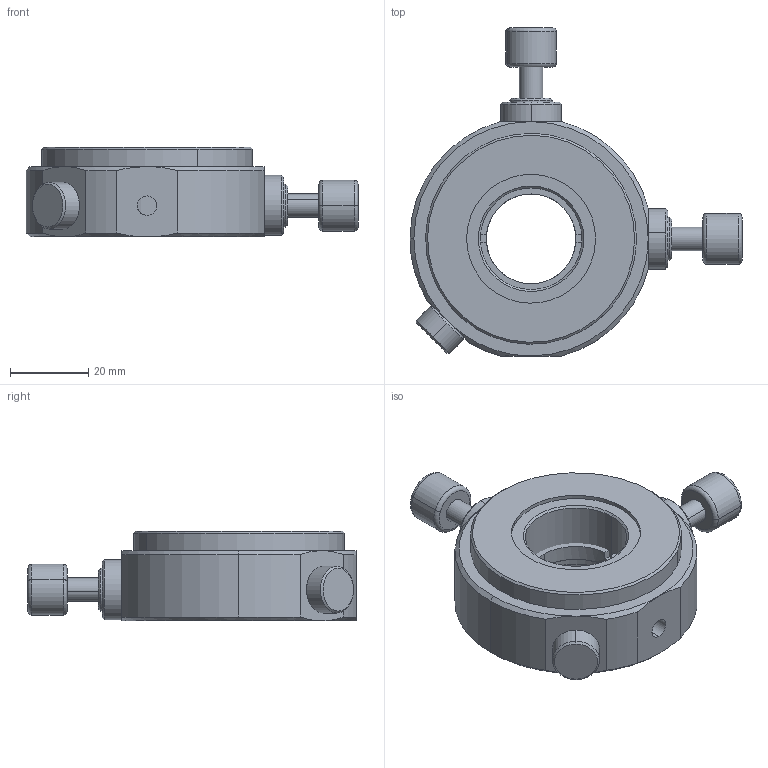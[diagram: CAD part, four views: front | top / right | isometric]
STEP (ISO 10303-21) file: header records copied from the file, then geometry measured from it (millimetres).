
FILE_DESCRIPTION (( 'STEP AP203' ), '1' );
FILE_NAME ('7MML7254謗峎覃淕芵噩殤.STEP', '2019-12-04T03:33:44', ( '' ), ( '' ), 'SwSTEP 2.0', 'SolidWorks 2018', '' );
FILE_SCHEMA (( 'CONFIG_CONTROL_DESIGN' ));
Length unit declared in the file: millimetre
Products named in the file (1): 7MML7254謗峎覃淕芵噩殤
Bounding box: 85 x 84 x 23 mm (x, y, z)
Volume: 50723.7 mm3; surface area: 30266.1 mm2
Topology: 14 solids, 14 shells, 263 faces, 571 edges, 352 vertices
Faces by surface type: cylinder 110, cone 75, plane 66, torus 8, sphere 4
Entity records: 7532 total; most frequent: CARTESIAN_POINT 1548, DIRECTION 1361, ORIENTED_EDGE 1118, AXIS2_PLACEMENT_3D 581, EDGE_CURVE 559, VERTEX_POINT 348, CIRCLE 317, EDGE_LOOP 313
